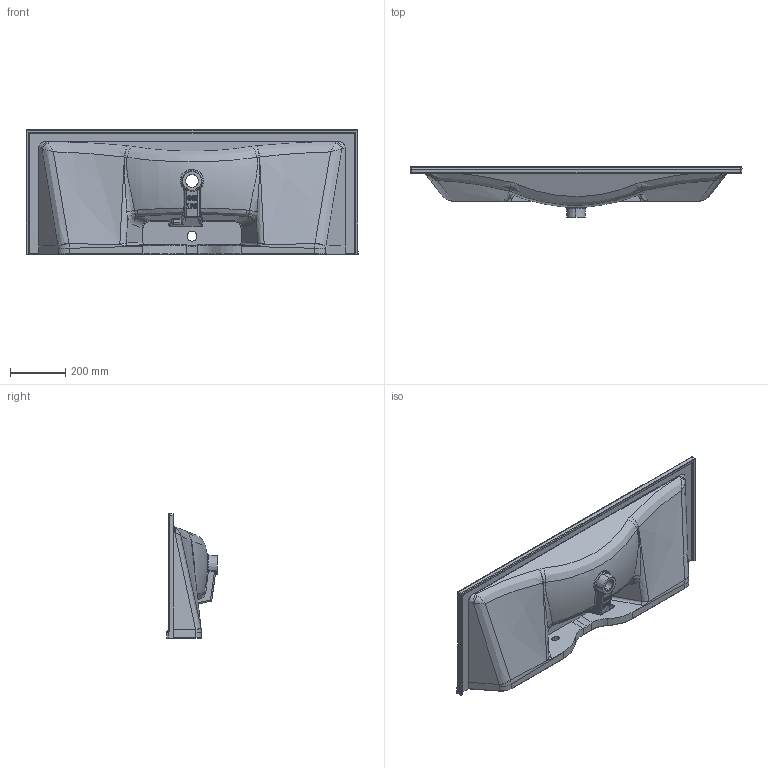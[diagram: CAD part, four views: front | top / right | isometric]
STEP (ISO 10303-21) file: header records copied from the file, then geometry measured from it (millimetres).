
FILE_DESCRIPTION (( 'STEP AP203' ), '1' );
FILE_NAME ('SU120.STEP', '2022-04-06T10:47:26', ( '' ), ( '' ), 'SwSTEP 2.0', 'SolidWorks 2021', '' );
FILE_SCHEMA (( 'CONFIG_CONTROL_DESIGN' ));
Products named in the file (1): SU120
Bounding box: 1199.98 x 183 x 449.74 mm (x, y, z)
Volume: 24325830.2 mm3; surface area: 1520448.9 mm2
Topology: 2 solids, 2 shells, 573 faces, 1356 edges, 762 vertices
Faces by surface type: bspline 227, cylinder 163, plane 81, sphere 49, torus 45, cone 8
Entity records: 48358 total; most frequent: CARTESIAN_POINT 36962, ORIENTED_EDGE 2634, DIRECTION 2008, EDGE_CURVE 1317, AXIS2_PLACEMENT_3D 806, VERTEX_POINT 755, EDGE_LOOP 590, ADVANCED_FACE 573
